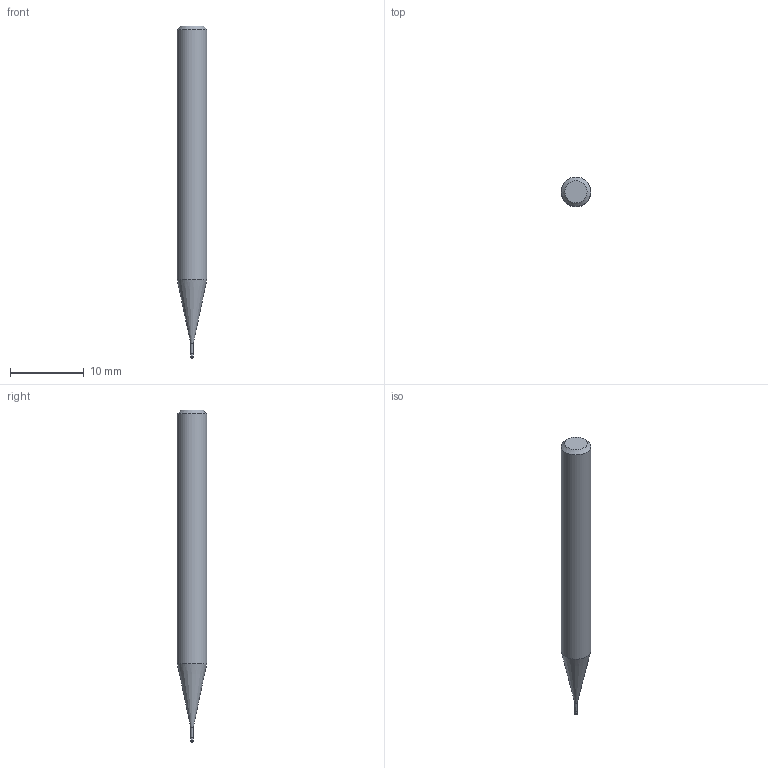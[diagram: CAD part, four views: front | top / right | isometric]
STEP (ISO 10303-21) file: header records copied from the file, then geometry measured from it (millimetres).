
FILE_DESCRIPTION((''),'2;1');
FILE_NAME('C:\Users\nsx150\AppData\Local\Temp\Mastercam 2021\YKS1SUSFZB\TEMP.step','2025-06-23T14:03:16',(''),(''),'STEP Write','Mastercam 2021 ... CNC Software, Inc.','');
FILE_SCHEMA(('AUTOMOTIVE_DESIGN'));
Length unit declared in the file: millimetre
Products named in the file (1): None
Bounding box: 4 x 4 x 45 mm (x, y, z)
Volume: 470.6 mm3; surface area: 503.1 mm2
Topology: 2 solids, 2 shells, 11 faces, 16 edges, 9 vertices
Faces by surface type: plane 4, cylinder 3, cone 3, torus 1
Full cylindrical faces by diameter (mm): 0.285 x1, 0.3 x1, 4 x1
Entity records: 253 total; most frequent: DIRECTION 44, CARTESIAN_POINT 31, AXIS2_PLACEMENT_3D 22, ORIENTED_EDGE 18, EDGE_LOOP 18, STYLED_ITEM 14, ADVANCED_FACE 11, FACE_BOUND 11
